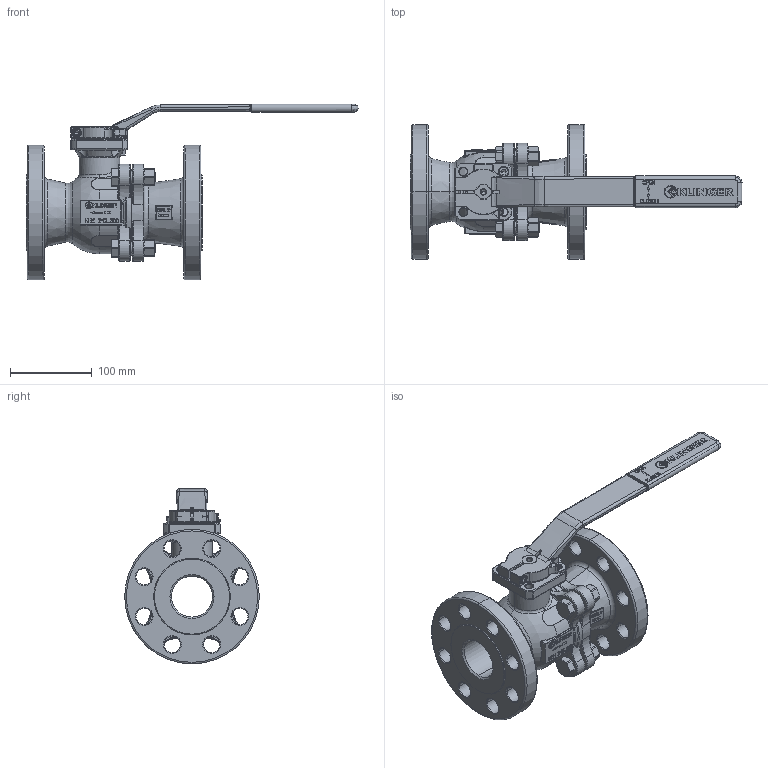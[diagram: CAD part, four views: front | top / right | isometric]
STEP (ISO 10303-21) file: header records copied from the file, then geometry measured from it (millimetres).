
FILE_DESCRIPTION((''),'2;1');
FILE_NAME('KHEFS-2-VFS-2-C300PKK','2015-08-11T',('mahrhauserh'),('RAND'),'PRO/ENGINEER BY PARAMETRIC TECHNOLOGY CORPORATION, 2013410','PRO/ENGINEER BY PARAMETRIC TECHNOLOGY CORPORATION, 2013410','');
FILE_SCHEMA(('CONFIG_CONTROL_DESIGN'));
Products named in the file (1): KHEFS-2-VFS-2-C300PKK
Bounding box: 407 x 165 x 215.55 mm (x, y, z)
Volume: 1760177.8 mm3; surface area: 352111.7 mm2
Topology: 1 solids, 3 shells, 3415 faces, 8900 edges, 5607 vertices
Faces by surface type: plane 1966, cylinder 537, torus 367, bspline 299, cone 209, sphere 37
Entity records: 132751 total; most frequent: CARTESIAN_POINT 50187, ORIENTED_EDGE 17784, DIRECTION 16423, EDGE_CURVE 8892, VECTOR 5795, LINE 5795, VERTEX_POINT 5607, AXIS2_PLACEMENT_3D 5314
